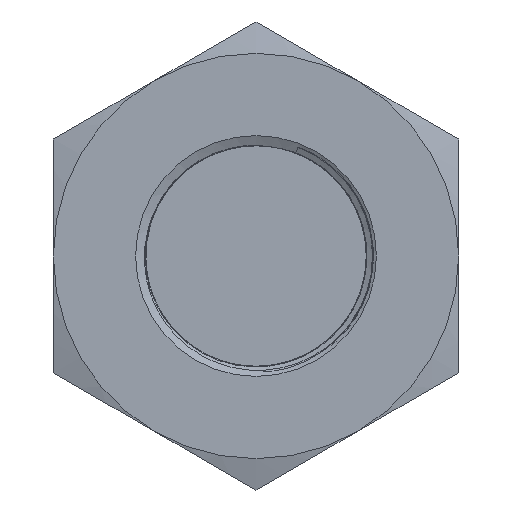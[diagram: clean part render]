
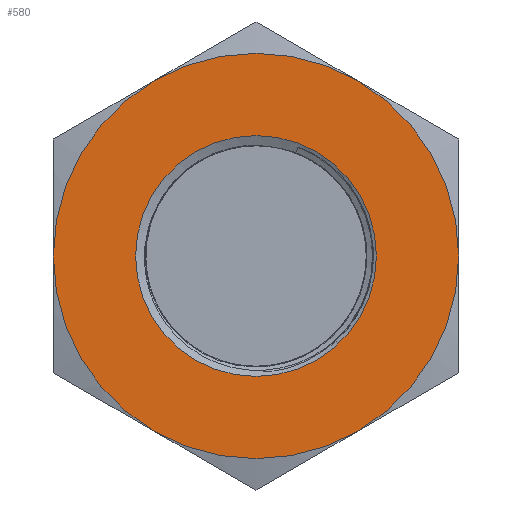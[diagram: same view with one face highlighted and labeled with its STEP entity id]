
A CAD part, left-side view. The second image highlights one B-rep face of the part: STEP entity #580.
In plain terms, the highlighted planar face has unit normal (-1, 0, 0).
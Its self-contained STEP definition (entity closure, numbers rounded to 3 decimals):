
#580 = ADVANCED_FACE( '', ( #1206, #1207 ), #1208, .F. );
#1206 = FACE_BOUND( '', #17838, .T. );
#1207 = FACE_OUTER_BOUND( '', #17839, .T. );
#1208 = PLANE( '', #17840 );
#17838 = EDGE_LOOP( '', ( #19702 ) );
#17839 = EDGE_LOOP( '', ( #19703, #19704, #19705, #19706, #19707, #19708 ) );
#17840 = AXIS2_PLACEMENT_3D( '', #19709, #19710, #19711 );
#19702 = ORIENTED_EDGE( '', *, *, #20424, .F. );
#19703 = ORIENTED_EDGE( '', *, *, #20664, .F. );
#19704 = ORIENTED_EDGE( '', *, *, #20940, .F. );
#19705 = ORIENTED_EDGE( '', *, *, #20941, .F. );
#19706 = ORIENTED_EDGE( '', *, *, #20852, .F. );
#19707 = ORIENTED_EDGE( '', *, *, #20942, .F. );
#19708 = ORIENTED_EDGE( '', *, *, #20365, .F. );
#19709 = CARTESIAN_POINT( '', ( 0., 0., 0. ) );
#19710 = DIRECTION( '', ( 1., 0., 0. ) );
#19711 = DIRECTION( '', ( 0., 1., 0. ) );
#20365 = EDGE_CURVE( '', #21216, #21218, #21219, .T. );
#20424 = EDGE_CURVE( '', #21320, #21320, #21321, .T. );
#20664 = EDGE_CURVE( '', #21271, #21216, #21703, .T. );
#20852 = EDGE_CURVE( '', #21958, #21950, #21960, .T. );
#20940 = EDGE_CURVE( '', #21332, #21271, #22070, .T. );
#20941 = EDGE_CURVE( '', #21950, #21332, #22071, .T. );
#20942 = EDGE_CURVE( '', #21218, #21958, #22072, .T. );
#21216 = VERTEX_POINT( '', #32287 );
#21218 = VERTEX_POINT( '', #32294 );
#21219 = CIRCLE( '', #32295, 41.275 );
#21271 = VERTEX_POINT( '', #32397 );
#21320 = VERTEX_POINT( '', #32826 );
#21321 = CIRCLE( '', #32827, 24.521 );
#21332 = VERTEX_POINT( '', #32910 );
#21703 = CIRCLE( '', #38545, 41.275 );
#21950 = VERTEX_POINT( '', #41523 );
#21958 = VERTEX_POINT( '', #41543 );
#21960 = CIRCLE( '', #41550, 41.275 );
#22070 = CIRCLE( '', #44100, 41.275 );
#22071 = CIRCLE( '', #44101, 41.275 );
#22072 = CIRCLE( '', #44102, 41.275 );
#32287 = CARTESIAN_POINT( '', ( 0., -20.638, 35.745 ) );
#32294 = CARTESIAN_POINT( '', ( 0., -41.275, 0. ) );
#32295 = AXIS2_PLACEMENT_3D( '', #44352, #44353, #44354 );
#32397 = CARTESIAN_POINT( '', ( 0., 20.638, 35.745 ) );
#32826 = CARTESIAN_POINT( '', ( 0., 0., 24.521 ) );
#32827 = AXIS2_PLACEMENT_3D( '', #44379, #44380, #44381 );
#32910 = CARTESIAN_POINT( '', ( 0., 41.275, 0. ) );
#38545 = AXIS2_PLACEMENT_3D( '', #44517, #44518, #44519 );
#41523 = CARTESIAN_POINT( '', ( 0., 20.638, -35.745 ) );
#41543 = CARTESIAN_POINT( '', ( 0., -20.638, -35.745 ) );
#41550 = AXIS2_PLACEMENT_3D( '', #44610, #44611, #44612 );
#44100 = AXIS2_PLACEMENT_3D( '', #44653, #44654, #44655 );
#44101 = AXIS2_PLACEMENT_3D( '', #44656, #44657, #44658 );
#44102 = AXIS2_PLACEMENT_3D( '', #44659, #44660, #44661 );
#44352 = CARTESIAN_POINT( '', ( 0., 0., 0. ) );
#44353 = DIRECTION( '', ( 1., 0., 0. ) );
#44354 = DIRECTION( '', ( 0., 1., 0. ) );
#44379 = CARTESIAN_POINT( '', ( 0., 0., 0. ) );
#44380 = DIRECTION( '', ( -1., 0., 0. ) );
#44381 = DIRECTION( '', ( 0., 0., 1. ) );
#44517 = CARTESIAN_POINT( '', ( 0., 0., 0. ) );
#44518 = DIRECTION( '', ( 1., 0., 0. ) );
#44519 = DIRECTION( '', ( 0., 1., 0. ) );
#44610 = CARTESIAN_POINT( '', ( 0., 0., 0. ) );
#44611 = DIRECTION( '', ( 1., 0., 0. ) );
#44612 = DIRECTION( '', ( 0., 1., 0. ) );
#44653 = CARTESIAN_POINT( '', ( 0., 0., 0. ) );
#44654 = DIRECTION( '', ( 1., 0., 0. ) );
#44655 = DIRECTION( '', ( 0., 1., 0. ) );
#44656 = CARTESIAN_POINT( '', ( 0., 0., 0. ) );
#44657 = DIRECTION( '', ( 1., 0., 0. ) );
#44658 = DIRECTION( '', ( 0., 1., 0. ) );
#44659 = CARTESIAN_POINT( '', ( 0., 0., 0. ) );
#44660 = DIRECTION( '', ( 1., 0., 0. ) );
#44661 = DIRECTION( '', ( 0., 1., 0. ) );
